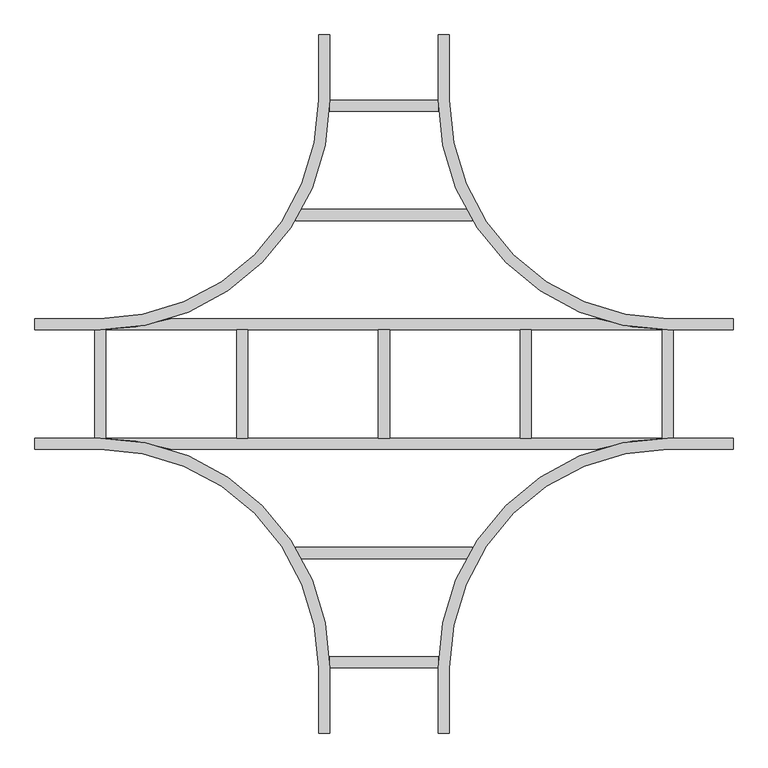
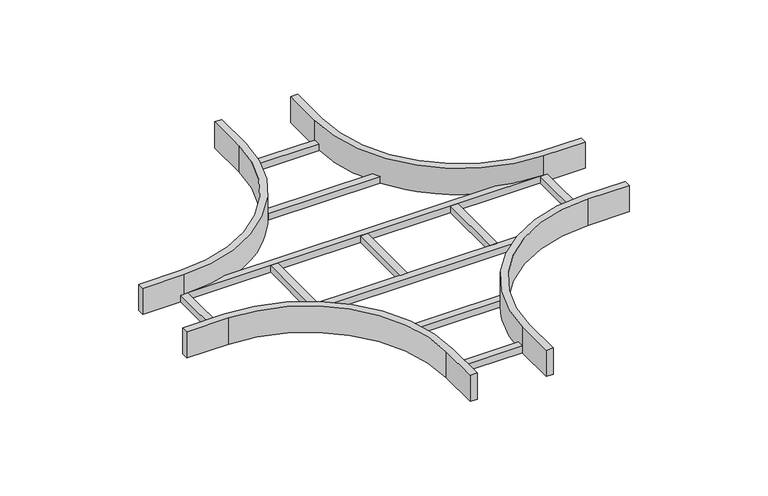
"""IFC4 building model written with IfcOpenShell, lengths in millimetres: cable carrier fitting geometry, BAKS_LDLS_CROSS_Horizontal cross over_CZDS : CZDSC_H100."""

from ifc_helpers import new_model, si_unit, frame, origin, place, context, project, spatial, polyline, circle_curve, outline, extrude, source, transform, mapped, element, save
from ifc_brep_helpers import plane_surface, cylinder_surface, revolved_surface, advanced_brep


def cable_carrier_fitting_4f3da76f(model_context):
    return source(origin(), model_context, "Body", "SolidModel", [
        extrude(outline(polyline([(202.5628536, -374.6), (202.5628536, -400.0), (-202.5628536, -400.0), (-202.5628536, -374.6), (202.5628536, -374.6)])), frame((0.0, 0.0, -50.0), z_axis=(0.0, 0.0, 1.0), x_axis=(1.0, 0.0, 0.0)), (0.0, 0.0, 1.0), 25.4),
        extrude(outline(polyline([(202.5628536, 400.0), (202.5628536, 374.6), (-202.5628536, 374.6), (-202.5628536, 400.0), (202.5628536, 400.0)])), frame((0.0, 0.0, -50.0), z_axis=(0.0, 0.0, 1.0), x_axis=(1.0, 0.0, 0.0)), (0.0, 0.0, 1.0), 25.4),
        extrude(outline(polyline([(124.6, -624.6), (124.6, -650.0), (-124.6, -650.0), (-124.6, -624.6), (124.6, -624.6)])), frame((0.0, 0.0, -50.0), z_axis=(0.0, 0.0, 1.0), x_axis=(1.0, 0.0, 0.0)), (0.0, 0.0, 1.0), 25.4),
        extrude(outline(polyline([(124.6, 650.0), (124.6, 624.6), (-124.6, 624.6), (-124.6, 650.0), (124.6, 650.0)])), frame((0.0, 0.0, -50.0), z_axis=(0.0, 0.0, 1.0), x_axis=(1.0, 0.0, 0.0)), (0.0, 0.0, 1.0), 25.4),
        extrude(outline(polyline([(662.7, 124.6), (662.7, -124.6), (637.3, -124.6), (637.3, 124.6), (662.7, 124.6)])), frame((0.0, 0.0, -50.0), z_axis=(0.0, 0.0, 1.0), x_axis=(1.0, 0.0, 0.0)), (0.0, 0.0, 1.0), 25.4),
        extrude(outline(polyline([(337.7, 124.6), (337.7, -124.6), (312.3, -124.6), (312.3, 124.6), (337.7, 124.6)])), frame((0.0, 0.0, -50.0), z_axis=(0.0, 0.0, 1.0), x_axis=(1.0, 0.0, 0.0)), (0.0, 0.0, 1.0), 25.4),
        extrude(outline(polyline([(12.7, 124.6), (12.7, -124.6), (-12.7, -124.6), (-12.7, 124.6), (12.7, 124.6)])), frame((0.0, 0.0, -50.0), z_axis=(0.0, 0.0, 1.0), x_axis=(1.0, 0.0, 0.0)), (0.0, 0.0, 1.0), 25.4),
        extrude(outline(polyline([(-312.3, 124.6), (-312.3, -124.6), (-337.7, -124.6), (-337.7, 124.6), (-312.3, 124.6)])), frame((0.0, 0.0, -50.0), z_axis=(0.0, 0.0, 1.0), x_axis=(1.0, 0.0, 0.0)), (0.0, 0.0, 1.0), 25.4),
        extrude(outline(polyline([(-637.3, 124.6), (-637.3, -124.6), (-662.7, -124.6), (-662.7, 124.6), (-637.3, 124.6)])), frame((0.0, 0.0, -50.0), z_axis=(0.0, 0.0, 1.0), x_axis=(1.0, 0.0, 0.0)), (0.0, 0.0, 1.0), 25.4),
        advanced_brep(
        [(-150.0, -650.0, 50.0), (-150.0, -800.0, 50.0), (-124.6, -800.0, 50.0), (-124.6, -650.0, 50.0), (-650.0, -124.6, 50.0), (-800.0, -124.6, 50.0), (-800.0, -150.0, 50.0), (-650.0, -150.0, 50.0), (150.0, -650.0, 50.0), (650.0, -150.0, 50.0), (800.0, -150.0, 50.0), (800.0, -124.6, 50.0), (650.0, -124.6, 50.0), (124.6, -650.0, 50.0), (124.6, -800.0, 50.0), (150.0, -800.0, 50.0), (-150.0, -650.0, -50.0), (-650.0, -150.0, -50.0), (-800.0, -150.0, -50.0), (-800.0, -124.6, -50.0), (800.0, -124.6, -50.0), (800.0, -150.0, -50.0), (650.0, -150.0, -50.0), (150.0, -650.0, -50.0), (150.0, -800.0, -50.0), (124.6, -800.0, -50.0), (124.6, -650.0, -50.0), (488.6148706, -150.0, -50.0), (-488.6148706, -150.0, -50.0), (-124.6, -650.0, -50.0), (-124.6, -800.0, -50.0), (-150.0, -800.0, -50.0), (-488.6148706, -150.0, -24.6), (-650.0, -124.6, -24.6), (650.0, -124.6, -24.6), (-650.0, -150.0, -24.6), (650.0, -150.0, -24.6), (488.6148706, -150.0, -24.6)],
        [
            (0, 1),
            (1, 2),
            (2, 3),
            (3, 4, circle_curve(frame((-650.0, -650.0, 50.0), z_axis=(0.0, 0.0, 1.0), x_axis=(1.0, 0.0, 0.0)), 525.4)),
            (4, 5),
            (5, 6),
            (6, 7),
            (7, 0, circle_curve(frame((-650.0, -650.0, 50.0), z_axis=(0.0, 0.0, -1.0), x_axis=(1.0, 0.0, 0.0)), 500.0)),
            (8, 9, circle_curve(frame((650.0, -650.0, 50.0), z_axis=(0.0, 0.0, -1.0), x_axis=(1.0, 0.0, 0.0)), 500.0)),
            (9, 10),
            (10, 11),
            (11, 12),
            (12, 13, circle_curve(frame((650.0, -650.0, 50.0), z_axis=(0.0, 0.0, 1.0), x_axis=(1.0, 0.0, 0.0)), 525.4)),
            (13, 14),
            (14, 15),
            (15, 8),
            (16, 17, circle_curve(frame((-650.0, -650.0, -50.0), z_axis=(0.0, 0.0, 1.0), x_axis=(1.0, 0.0, 0.0)), 500.0)),
            (17, 18),
            (18, 19),
            (19, 20),
            (20, 21),
            (21, 22),
            (22, 23, circle_curve(frame((650.0, -650.0, -50.0), z_axis=(0.0, 0.0, 1.0), x_axis=(1.0, 0.0, 0.0)), 500.0)),
            (23, 24),
            (24, 25),
            (25, 26),
            (26, 27, circle_curve(frame((650.0, -650.0, -50.0), z_axis=(0.0, 0.0, -1.0), x_axis=(1.0, 0.0, 0.0)), 525.4)),
            (27, 28),
            (28, 29, circle_curve(frame((-650.0, -650.0, -50.0), z_axis=(0.0, 0.0, -1.0), x_axis=(1.0, 0.0, 0.0)), 525.4)),
            (29, 30),
            (30, 31),
            (31, 16),
            (0, 16),
            (31, 1),
            (30, 2),
            (29, 3),
            (28, 32),
            (32, 33, circle_curve(frame((-650.0, -650.0, -24.6), z_axis=(0.0, 0.0, 1.0), x_axis=(1.0, 0.0, 0.0)), 525.4)),
            (33, 4),
            (33, 34),
            (34, 12),
            (11, 20),
            (19, 5),
            (18, 6),
            (17, 35),
            (35, 7),
            (8, 23),
            (22, 36),
            (36, 9),
            (21, 10),
            (34, 37, circle_curve(frame((650.0, -650.0, -24.6), z_axis=(0.0, 0.0, 1.0), x_axis=(1.0, 0.0, 0.0)), 525.4)),
            (37, 27),
            (26, 13),
            (25, 14),
            (24, 15),
            (32, 37),
        ],
        [
            plane_surface(frame((-150.0, -650.0, 50.0), z_axis=(0.0, 0.0, 1.0), x_axis=(0.0, -1.0, 0.0))),
            plane_surface(frame((-150.0, -650.0, -50.0), z_axis=(0.0, 0.0, -1.0), x_axis=(0.0, 1.0, 0.0))),
            plane_surface(frame((-150.0, -650.0, 50.0), z_axis=(-1.0, 0.0, 0.0), x_axis=(0.0, 0.0, -1.0))),
            plane_surface(frame((-150.0, -800.0, 50.0), z_axis=(0.0, -1.0, 0.0), x_axis=(0.0, 0.0, -1.0))),
            plane_surface(frame((-124.6, -800.0, 50.0), z_axis=(1.0, 0.0, 0.0), x_axis=(0.0, 0.0, -1.0))),
            cylinder_surface(frame((-650.0, -650.0, -50.0), z_axis=(0.0, 0.0, 1.0), x_axis=(1.0, 0.0, 0.0)), 525.4),
            plane_surface(frame((-650.0, -124.6, 50.0), z_axis=(0.0, 1.0, 0.0), x_axis=(0.0, 0.0, -1.0))),
            plane_surface(frame((-800.0, -124.6, 50.0), z_axis=(-1.0, 0.0, 0.0), x_axis=(0.0, 0.0, -1.0))),
            plane_surface(frame((-800.0, -150.0, 50.0), z_axis=(0.0, -1.0, 0.0), x_axis=(0.0, 0.0, -1.0))),
            revolved_surface(polyline([(-150.0, -650.0, -50.0), (-150.0, -650.0, 50.0)]), (-650.0, -650.0, -50.0), (0.0, 0.0, -1.0)),
            revolved_surface(polyline([(1150.0, -650.0, -50.0), (1150.0, -650.0, 50.0)]), (650.0, -650.0, 0.0), (0.0, 0.0, -1.0)),
            plane_surface(frame((650.0, -150.0, 50.0), z_axis=(0.0, -1.0, 0.0), x_axis=(0.0, 0.0, -1.0))),
            plane_surface(frame((800.0, -150.0, 50.0), z_axis=(1.0, 0.0, 0.0), x_axis=(0.0, 0.0, -1.0))),
            cylinder_surface(frame((650.0, -650.0, 0.0), z_axis=(0.0, 0.0, 1.0), x_axis=(1.0, 0.0, 0.0)), 525.4),
            plane_surface(frame((124.6, -650.0, 50.0), z_axis=(-1.0, 0.0, 0.0), x_axis=(0.0, 0.0, -1.0))),
            plane_surface(frame((124.6, -800.0, 50.0), z_axis=(0.0, -1.0, 0.0), x_axis=(0.0, 0.0, -1.0))),
            plane_surface(frame((150.0, -800.0, 50.0), z_axis=(1.0, 0.0, 0.0), x_axis=(0.0, 0.0, -1.0))),
            plane_surface(frame((-650.0, -124.6, -24.6), z_axis=(0.0, 0.0, 1.0), x_axis=(-1.0, 0.0, 0.0))),
            plane_surface(frame((-650.0, -150.0, -24.6), z_axis=(0.0, -1.0, 0.0), x_axis=(0.0, 0.0, -1.0))),
        ],
        [
            (0, [[1, 2, 3, 4, 5, 6, 7, 8]]),
            (0, [[9, 10, 11, 12, 13, 14, 15, 16]]),
            (1, [[17, 18, 19, 20, 21, 22, 23, 24, 25, 26, 27, 28, 29, 30, 31, 32]]),
            (2, [[-1, 33, -32, 34]]),
            (3, [[-2, -34, -31, 35]]),
            (4, [[-3, -35, -30, 36]]),
            (5, [[-4, -36, -29, 37, 38, 39]]),
            (6, [[-5, -39, 40, 41, -12, 42, -20, 43]]),
            (7, [[-6, -43, -19, 44]]),
            (8, [[-7, -44, -18, 45, 46]]),
            (9, [[-8, -46, -45, -17, -33]]),
            (10, [[-9, 47, -23, 48, 49]]),
            (11, [[-10, -49, -48, -22, 50]]),
            (12, [[-11, -50, -21, -42]]),
            (13, [[-13, -41, 51, 52, -27, 53]]),
            (14, [[-14, -53, -26, 54]]),
            (15, [[-15, -54, -25, 55]]),
            (16, [[-16, -55, -24, -47]]),
            (17, [[-40, -38, 56, -51]]),
            (18, [[-28, -52, -56, -37]]),
        ],
    ),
        advanced_brep(
        [(-124.6, 650.0, 50.0), (-124.6, 800.0, 50.0), (-150.0, 800.0, 50.0), (-150.0, 650.0, 50.0), (-650.0, 150.0, 50.0), (-800.0, 150.0, 50.0), (-800.0, 124.6, 50.0), (-650.0, 124.6, 50.0), (124.6, 650.0, 50.0), (650.0, 124.6, 50.0), (800.0, 124.6, 50.0), (800.0, 150.0, 50.0), (650.0, 150.0, 50.0), (150.0, 650.0, 50.0), (150.0, 800.0, 50.0), (124.6, 800.0, 50.0), (-800.0, 124.6, -50.0), (-800.0, 150.0, -50.0), (-650.0, 150.0, -50.0), (-150.0, 650.0, -50.0), (-150.0, 800.0, -50.0), (-124.6, 800.0, -50.0), (-124.6, 650.0, -50.0), (-488.6148706, 150.0, -50.0), (488.6148706, 150.0, -50.0), (124.6, 650.0, -50.0), (124.6, 800.0, -50.0), (150.0, 800.0, -50.0), (150.0, 650.0, -50.0), (650.0, 150.0, -50.0), (800.0, 150.0, -50.0), (800.0, 124.6, -50.0), (-650.0, 124.6, -24.6), (650.0, 124.6, -24.6), (488.6148706, 150.0, -24.6), (-488.6148706, 150.0, -24.6), (-650.0, 150.0, -24.6), (650.0, 150.0, -24.6)],
        [
            (0, 1),
            (1, 2),
            (2, 3),
            (3, 4, circle_curve(frame((-650.0, 650.0, 50.0), z_axis=(0.0, 0.0, -1.0), x_axis=(1.0, 0.0, 0.0)), 500.0)),
            (4, 5),
            (5, 6),
            (6, 7),
            (7, 0, circle_curve(frame((-650.0, 650.0, 50.0), z_axis=(0.0, 0.0, 1.0), x_axis=(1.0, 0.0, 0.0)), 525.4)),
            (8, 9, circle_curve(frame((650.0, 650.0, 50.0), z_axis=(0.0, 0.0, 1.0), x_axis=(1.0, 0.0, 0.0)), 525.4)),
            (9, 10),
            (10, 11),
            (11, 12),
            (12, 13, circle_curve(frame((650.0, 650.0, 50.0), z_axis=(0.0, 0.0, -1.0), x_axis=(1.0, 0.0, 0.0)), 500.0)),
            (13, 14),
            (14, 15),
            (15, 8),
            (16, 17),
            (17, 18),
            (18, 19, circle_curve(frame((-650.0, 650.0, -50.0), z_axis=(0.0, 0.0, 1.0), x_axis=(1.0, 0.0, 0.0)), 500.0)),
            (19, 20),
            (20, 21),
            (21, 22),
            (22, 23, circle_curve(frame((-650.0, 650.0, -50.0), z_axis=(0.0, 0.0, -1.0), x_axis=(1.0, 0.0, 0.0)), 525.4)),
            (23, 24),
            (24, 25, circle_curve(frame((650.0, 650.0, -50.0), z_axis=(0.0, 0.0, -1.0), x_axis=(1.0, 0.0, 0.0)), 525.4)),
            (25, 26),
            (26, 27),
            (27, 28),
            (28, 29, circle_curve(frame((650.0, 650.0, -50.0), z_axis=(0.0, 0.0, 1.0), x_axis=(1.0, 0.0, 0.0)), 500.0)),
            (29, 30),
            (30, 31),
            (31, 16),
            (32, 33),
            (33, 34, circle_curve(frame((650.0, 650.0, -24.6), z_axis=(0.0, 0.0, -1.0), x_axis=(1.0, 0.0, 0.0)), 525.4)),
            (34, 35),
            (35, 32, circle_curve(frame((-650.0, 650.0, -24.6), z_axis=(0.0, 0.0, -1.0), x_axis=(1.0, 0.0, 0.0)), 525.4)),
            (0, 22),
            (21, 1),
            (20, 2),
            (19, 3),
            (18, 36),
            (36, 4),
            (17, 5),
            (16, 6),
            (31, 10),
            (9, 33),
            (32, 7),
            (35, 23),
            (8, 25),
            (24, 34),
            (30, 11),
            (29, 37),
            (37, 12),
            (28, 13),
            (27, 14),
            (26, 15),
        ],
        [
            plane_surface(frame((-150.0, -650.0, 50.0), z_axis=(0.0, 0.0, 1.0), x_axis=(0.0, -1.0, 0.0))),
            plane_surface(frame((-150.0, -650.0, -50.0), z_axis=(0.0, 0.0, -1.0), x_axis=(0.0, 1.0, 0.0))),
            plane_surface(frame((-650.0, -124.6, -24.6), z_axis=(0.0, 0.0, 1.0), x_axis=(-1.0, 0.0, 0.0))),
            plane_surface(frame((-124.6, 650.0, 50.0), z_axis=(1.0, 0.0, 0.0), x_axis=(0.0, 0.0, -1.0))),
            plane_surface(frame((-124.6, 800.0, 50.0), z_axis=(0.0, 1.0, 0.0), x_axis=(0.0, 0.0, -1.0))),
            plane_surface(frame((-150.0, 800.0, 50.0), z_axis=(-1.0, 0.0, 0.0), x_axis=(0.0, 0.0, -1.0))),
            revolved_surface(polyline([(-150.0, 650.0, -50.0), (-150.0, 650.0, 50.0)]), (-650.0, 650.0, 0.0), (0.0, 0.0, -1.0)),
            plane_surface(frame((-650.0, 150.0, 50.0), z_axis=(0.0, 1.0, 0.0), x_axis=(0.0, 0.0, -1.0))),
            plane_surface(frame((-800.0, 150.0, 50.0), z_axis=(-1.0, 0.0, 0.0), x_axis=(0.0, 0.0, -1.0))),
            plane_surface(frame((-800.0, 124.6, 50.0), z_axis=(0.0, -1.0, 0.0), x_axis=(0.0, 0.0, -1.0))),
            cylinder_surface(frame((-650.0, 650.0, 0.0), z_axis=(0.0, 0.0, 1.0), x_axis=(1.0, 0.0, 0.0)), 525.4),
            cylinder_surface(frame((650.0, 650.0, 0.0), z_axis=(0.0, 0.0, 1.0), x_axis=(1.0, 0.0, 0.0)), 525.4),
            plane_surface(frame((800.0, 124.6, 50.0), z_axis=(1.0, 0.0, 0.0), x_axis=(0.0, 0.0, -1.0))),
            plane_surface(frame((800.0, 150.0, 50.0), z_axis=(0.0, 1.0, 0.0), x_axis=(0.0, 0.0, -1.0))),
            revolved_surface(polyline([(1150.0, 650.0, -50.0), (1150.0, 650.0, 50.0)]), (650.0, 650.0, 0.0), (0.0, 0.0, -1.0)),
            plane_surface(frame((150.0, 650.0, 50.0), z_axis=(1.0, 0.0, 0.0), x_axis=(0.0, 0.0, -1.0))),
            plane_surface(frame((150.0, 800.0, 50.0), z_axis=(0.0, 1.0, 0.0), x_axis=(0.0, 0.0, -1.0))),
            plane_surface(frame((124.6, 800.0, 50.0), z_axis=(-1.0, 0.0, 0.0), x_axis=(0.0, 0.0, -1.0))),
            plane_surface(frame((650.0, 150.0, -24.6), z_axis=(0.0, 1.0, 0.0), x_axis=(0.0, 0.0, -1.0))),
        ],
        [
            (0, [[1, 2, 3, 4, 5, 6, 7, 8]]),
            (0, [[9, 10, 11, 12, 13, 14, 15, 16]]),
            (1, [[17, 18, 19, 20, 21, 22, 23, 24, 25, 26, 27, 28, 29, 30, 31, 32]]),
            (2, [[33, 34, 35, 36]]),
            (3, [[-1, 37, -22, 38]]),
            (4, [[-2, -38, -21, 39]]),
            (5, [[-3, -39, -20, 40]]),
            (6, [[-4, -40, -19, 41, 42]]),
            (7, [[-5, -42, -41, -18, 43]]),
            (8, [[-6, -43, -17, 44]]),
            (9, [[-7, -44, -32, 45, -10, 46, -33, 47]]),
            (10, [[-8, -47, -36, 48, -23, -37]]),
            (11, [[-9, 49, -25, 50, -34, -46]]),
            (12, [[-11, -45, -31, 51]]),
            (13, [[-12, -51, -30, 52, 53]]),
            (14, [[-13, -53, -52, -29, 54]]),
            (15, [[-14, -54, -28, 55]]),
            (16, [[-15, -55, -27, 56]]),
            (17, [[-16, -56, -26, -49]]),
            (18, [[-24, -48, -35, -50]]),
        ],
    ),
    ])


if __name__ == "__main__":
    model = new_model("IFC4")
    model_context = context("Model", 3, world=origin())
    ifc_project = project(units=[si_unit("LENGTHUNIT", "METRE", prefix="MILLI")], contexts=[model_context])
    site = spatial("IfcSite", under=ifc_project)
    building = spatial("IfcBuilding", under=site)
    placement = place(None, origin())
    cable_carrier_fitting_shape = cable_carrier_fitting_4f3da76f(model_context)
    element("IfcCableCarrierFitting", 1, ObjectType="BAKS_LDLS_CROSS_Horizontal cross over_CZDS : CZDSC_H100", at=placement, inside=building, context=model_context, shape_type="MappedRepresentation", body=[
        mapped(cable_carrier_fitting_shape, transform((0.0, 0.0, 0.0), x_axis=(1.0, 0.0, 0.0), y_axis=(0.0, 1.0, 0.0), z_axis=(0.0, 0.0, 1.0))),
    ])
    save(model, "model.ifc")
